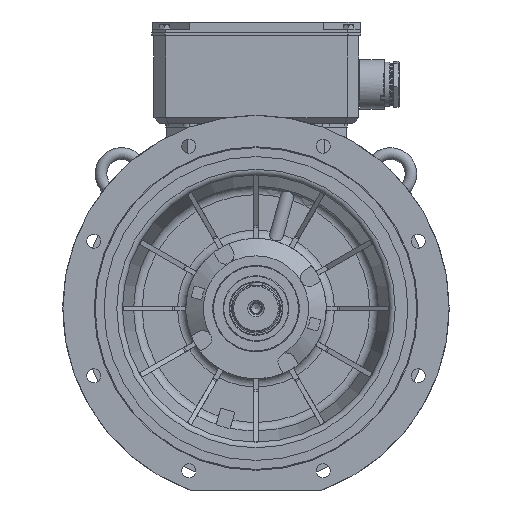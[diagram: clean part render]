
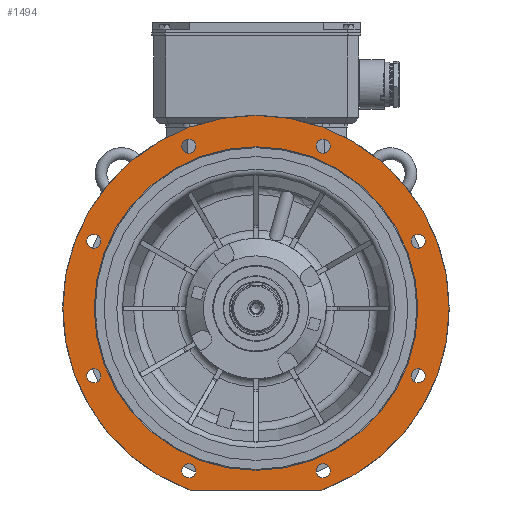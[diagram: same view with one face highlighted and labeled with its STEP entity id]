
A CAD part, front view. The second image highlights one B-rep face of the part: STEP entity #1494.
In plain terms, the highlighted planar face has unit normal (0, -1, 0).
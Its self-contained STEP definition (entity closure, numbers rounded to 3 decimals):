
#1494 = ADVANCED_FACE( '', ( #4203, #4204, #4205, #4206, #4207, #4208, #4209, #4210, #4211, #4212 ), #4213, .F. );
#4203 = FACE_BOUND( '', #11061, .T. );
#4204 = FACE_BOUND( '', #11062, .T. );
#4205 = FACE_BOUND( '', #11063, .T. );
#4206 = FACE_BOUND( '', #11064, .T. );
#4207 = FACE_BOUND( '', #11065, .T. );
#4208 = FACE_BOUND( '', #11066, .T. );
#4209 = FACE_BOUND( '', #11067, .T. );
#4210 = FACE_BOUND( '', #11068, .T. );
#4211 = FACE_BOUND( '', #11069, .T. );
#4212 = FACE_OUTER_BOUND( '', #11070, .T. );
#4213 = PLANE( '', #11071 );
#11061 = EDGE_LOOP( '', ( #21183 ) );
#11062 = EDGE_LOOP( '', ( #21184 ) );
#11063 = EDGE_LOOP( '', ( #21185 ) );
#11064 = EDGE_LOOP( '', ( #21186 ) );
#11065 = EDGE_LOOP( '', ( #21187 ) );
#11066 = EDGE_LOOP( '', ( #21188 ) );
#11067 = EDGE_LOOP( '', ( #21189 ) );
#11068 = EDGE_LOOP( '', ( #21190 ) );
#11069 = EDGE_LOOP( '', ( #21191 ) );
#11070 = EDGE_LOOP( '', ( #21192, #21193, #21194, #21195 ) );
#11071 = AXIS2_PLACEMENT_3D( '', #21196, #21197, #21198 );
#21183 = ORIENTED_EDGE( '', *, *, #24547, .F. );
#21184 = ORIENTED_EDGE( '', *, *, #24549, .F. );
#21185 = ORIENTED_EDGE( '', *, *, #24551, .F. );
#21186 = ORIENTED_EDGE( '', *, *, #24553, .F. );
#21187 = ORIENTED_EDGE( '', *, *, #24555, .F. );
#21188 = ORIENTED_EDGE( '', *, *, #24557, .F. );
#21189 = ORIENTED_EDGE( '', *, *, #24559, .F. );
#21190 = ORIENTED_EDGE( '', *, *, #24561, .F. );
#21191 = ORIENTED_EDGE( '', *, *, #25030, .F. );
#21192 = ORIENTED_EDGE( '', *, *, #22340, .T. );
#21193 = ORIENTED_EDGE( '', *, *, #24762, .F. );
#21194 = ORIENTED_EDGE( '', *, *, #22337, .T. );
#21195 = ORIENTED_EDGE( '', *, *, #22343, .F. );
#21196 = CARTESIAN_POINT( '', ( 0., -104.997, 276.4 ) );
#21197 = DIRECTION( '', ( 0., 1., 0. ) );
#21198 = DIRECTION( '', ( 0., 0., 1. ) );
#22337 = EDGE_CURVE( '', #26116, #26117, #26118, .F. );
#22340 = EDGE_CURVE( '', #26121, #26122, #26123, .F. );
#22343 = EDGE_CURVE( '', #26121, #26117, #26126, .T. );
#24547 = EDGE_CURVE( '', #29813, #29813, #29814, .T. );
#24549 = EDGE_CURVE( '', #29817, #29817, #29818, .T. );
#24551 = EDGE_CURVE( '', #29821, #29821, #29822, .T. );
#24553 = EDGE_CURVE( '', #29825, #29825, #29826, .T. );
#24555 = EDGE_CURVE( '', #29829, #29829, #29830, .T. );
#24557 = EDGE_CURVE( '', #29833, #29833, #29834, .T. );
#24559 = EDGE_CURVE( '', #29837, #29837, #29838, .T. );
#24561 = EDGE_CURVE( '', #29841, #29841, #29842, .T. );
#24762 = EDGE_CURVE( '', #26116, #26122, #30185, .T. );
#25030 = EDGE_CURVE( '', #30602, #30602, #30603, .T. );
#26116 = VERTEX_POINT( '', #33823 );
#26117 = VERTEX_POINT( '', #33824 );
#26118 = CIRCLE( '', #33825, 3. );
#26121 = VERTEX_POINT( '', #33830 );
#26122 = VERTEX_POINT( '', #33831 );
#26123 = CIRCLE( '', #33832, 3. );
#26126 = CIRCLE( '', #33837, 330. );
#29813 = VERTEX_POINT( '', #42731 );
#29814 = CIRCLE( '', #42732, 12. );
#29817 = VERTEX_POINT( '', #42735 );
#29818 = CIRCLE( '', #42736, 12. );
#29821 = VERTEX_POINT( '', #42739 );
#29822 = CIRCLE( '', #42740, 12. );
#29825 = VERTEX_POINT( '', #42743 );
#29826 = CIRCLE( '', #42744, 12. );
#29829 = VERTEX_POINT( '', #42747 );
#29830 = CIRCLE( '', #42748, 12. );
#29833 = VERTEX_POINT( '', #42751 );
#29834 = CIRCLE( '', #42752, 12. );
#29837 = VERTEX_POINT( '', #42755 );
#29838 = CIRCLE( '', #42756, 12. );
#29841 = VERTEX_POINT( '', #42759 );
#29842 = CIRCLE( '', #42760, 12. );
#30185 = LINE( '', #43462, #43463 );
#30602 = VERTEX_POINT( '', #45300 );
#30603 = CIRCLE( '', #45301, 276.4 );
#33823 = CARTESIAN_POINT( '', ( 112.606, -104.997, -310. ) );
#33824 = CARTESIAN_POINT( '', ( 113.639, -104.997, -309.817 ) );
#33825 = AXIS2_PLACEMENT_3D( '', #46227, #46228, #46229 );
#33830 = CARTESIAN_POINT( '', ( -113.639, -104.997, -309.817 ) );
#33831 = CARTESIAN_POINT( '', ( -112.606, -104.997, -310. ) );
#33832 = AXIS2_PLACEMENT_3D( '', #46232, #46233, #46234 );
#33837 = AXIS2_PLACEMENT_3D( '', #46237, #46238, #46239 );
#42731 = CARTESIAN_POINT( '', ( -265.164, -104.997, 114.805 ) );
#42732 = AXIS2_PLACEMENT_3D( '', #49301, #49302, #49303 );
#42735 = CARTESIAN_POINT( '', ( -265.164, -104.997, -114.805 ) );
#42736 = AXIS2_PLACEMENT_3D( '', #49307, #49308, #49309 );
#42739 = CARTESIAN_POINT( '', ( -102.805, -104.997, -277.164 ) );
#42740 = AXIS2_PLACEMENT_3D( '', #49313, #49314, #49315 );
#42743 = CARTESIAN_POINT( '', ( 126.805, -104.997, -277.164 ) );
#42744 = AXIS2_PLACEMENT_3D( '', #49319, #49320, #49321 );
#42747 = CARTESIAN_POINT( '', ( 289.164, -104.997, -114.805 ) );
#42748 = AXIS2_PLACEMENT_3D( '', #49325, #49326, #49327 );
#42751 = CARTESIAN_POINT( '', ( 289.164, -104.997, 114.805 ) );
#42752 = AXIS2_PLACEMENT_3D( '', #49331, #49332, #49333 );
#42755 = CARTESIAN_POINT( '', ( 126.805, -104.997, 277.164 ) );
#42756 = AXIS2_PLACEMENT_3D( '', #49337, #49338, #49339 );
#42759 = CARTESIAN_POINT( '', ( -102.805, -104.997, 277.164 ) );
#42760 = AXIS2_PLACEMENT_3D( '', #49343, #49344, #49345 );
#43462 = CARTESIAN_POINT( '', ( -113.137, -104.997, -310. ) );
#43463 = VECTOR( '', #49650, 1000. );
#45300 = CARTESIAN_POINT( '', ( 0., -104.997, -276.4 ) );
#45301 = AXIS2_PLACEMENT_3D( '', #49960, #49961, #49962 );
#46227 = CARTESIAN_POINT( '', ( 112.606, -104.997, -307. ) );
#46228 = DIRECTION( '', ( 0., 1., 0. ) );
#46229 = DIRECTION( '', ( 0., 0., 1. ) );
#46232 = CARTESIAN_POINT( '', ( -112.606, -104.997, -307. ) );
#46233 = DIRECTION( '', ( 0., 1., 0. ) );
#46234 = DIRECTION( '', ( 0., 0., 1. ) );
#46237 = CARTESIAN_POINT( '', ( 0., -104.997, 0. ) );
#46238 = DIRECTION( '', ( 0., 1., 0. ) );
#46239 = DIRECTION( '', ( 0., 0., 1. ) );
#49301 = CARTESIAN_POINT( '', ( -277.164, -104.997, 114.805 ) );
#49302 = DIRECTION( '', ( 0., -1., 0. ) );
#49303 = DIRECTION( '', ( 1., 0., 0. ) );
#49307 = CARTESIAN_POINT( '', ( -277.164, -104.997, -114.805 ) );
#49308 = DIRECTION( '', ( 0., -1., 0. ) );
#49309 = DIRECTION( '', ( 1., 0., 0. ) );
#49313 = CARTESIAN_POINT( '', ( -114.805, -104.997, -277.164 ) );
#49314 = DIRECTION( '', ( 0., -1., 0. ) );
#49315 = DIRECTION( '', ( 1., 0., 0. ) );
#49319 = CARTESIAN_POINT( '', ( 114.805, -104.997, -277.164 ) );
#49320 = DIRECTION( '', ( 0., -1., 0. ) );
#49321 = DIRECTION( '', ( 1., 0., 0. ) );
#49325 = CARTESIAN_POINT( '', ( 277.164, -104.997, -114.805 ) );
#49326 = DIRECTION( '', ( 0., -1., 0. ) );
#49327 = DIRECTION( '', ( 1., 0., 0. ) );
#49331 = CARTESIAN_POINT( '', ( 277.164, -104.997, 114.805 ) );
#49332 = DIRECTION( '', ( 0., -1., 0. ) );
#49333 = DIRECTION( '', ( 1., 0., 0. ) );
#49337 = CARTESIAN_POINT( '', ( 114.805, -104.997, 277.164 ) );
#49338 = DIRECTION( '', ( 0., -1., 0. ) );
#49339 = DIRECTION( '', ( 1., 0., 0. ) );
#49343 = CARTESIAN_POINT( '', ( -114.805, -104.997, 277.164 ) );
#49344 = DIRECTION( '', ( 0., -1., 0. ) );
#49345 = DIRECTION( '', ( 1., 0., 0. ) );
#49650 = DIRECTION( '', ( -1., 0., 0. ) );
#49960 = CARTESIAN_POINT( '', ( 0., -104.997, 0. ) );
#49961 = DIRECTION( '', ( 0., -1., 0. ) );
#49962 = DIRECTION( '', ( 0., 0., -1. ) );
